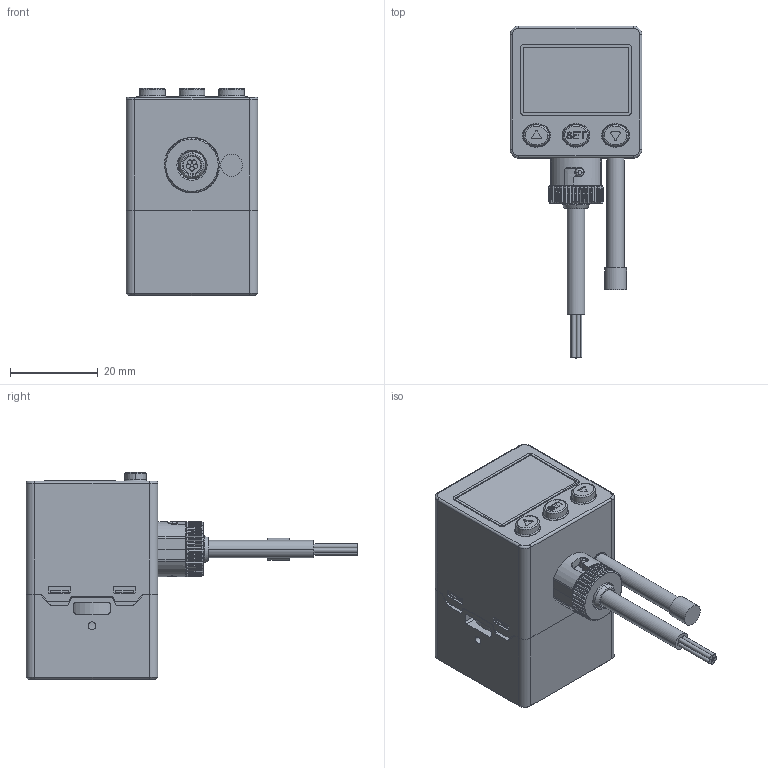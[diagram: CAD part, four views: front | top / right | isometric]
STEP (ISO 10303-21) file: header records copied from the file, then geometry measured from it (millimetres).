
FILE_DESCRIPTION((''),'2;1');
FILE_NAME('KDS','2019-07-03T',('Stark'),(''),'CREO PARAMETRIC BY PTC INC, 2014500','CREO PARAMETRIC BY PTC INC, 2014500','');
FILE_SCHEMA(('CONFIG_CONTROL_DESIGN'));
Length unit declared in the file: millimetre
Products named in the file (1): KDS
Bounding box: 30 x 75.5 x 47.1 mm (x, y, z)
Volume: 41914.1 mm3; surface area: 10288.3 mm2
Topology: 1 solids, 1 shells, 869 faces, 2372 edges, 1537 vertices
Faces by surface type: plane 353, cylinder 238, cone 148, bspline 104, torus 20, extrusion 6
Entity records: 39836 total; most frequent: CARTESIAN_POINT 19563, ORIENTED_EDGE 4740, DIRECTION 3437, EDGE_CURVE 2370, VERTEX_POINT 1537, AXIS2_PLACEMENT_3D 1222, VECTOR 993, LINE 987
